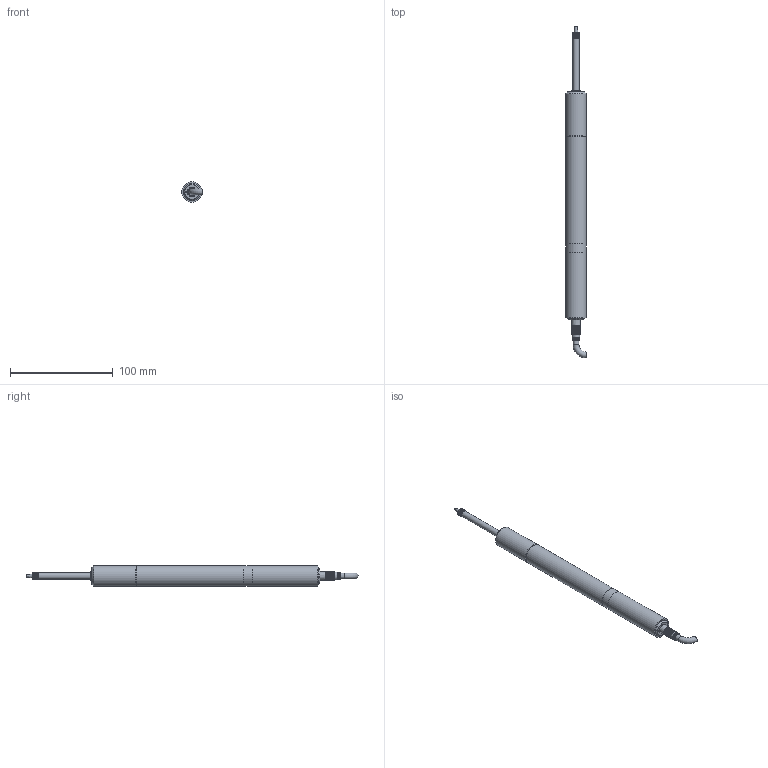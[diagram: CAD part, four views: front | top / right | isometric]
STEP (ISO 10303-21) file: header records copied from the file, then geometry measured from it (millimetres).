
FILE_DESCRIPTION( ( 'STEP AP203' ), '1' );
FILE_NAME( 'N:/Engineering/CAD_Solid/Magnescale/DG-Serie/DK 50 NR5/Kunden 3D/DK 50 NR5 vereinfacht.stp', '2010-08-05T11:51:56', ( ' ' ), ( ' ' ), 'XStep 1.0', ' ', ' ' );
FILE_SCHEMA( ( 'CONFIG_CONTROL_DESIGN) ( )' ) );
Length unit declared in the file: metre
Products named in the file (6): 1; 2; 3; 4; 5; 6
Bounding box: 20 x 323.38 x 20 mm (x, y, z)
Surface area: 17621.7 mm2 (no closed solid volume)
Topology: 0 solids, 150 shells, 150 faces, 764 edges, 728 vertices
Faces by surface type: plane 81, cylinder 34, cone 33, torus 1, bspline 1
Full cylindrical faces by diameter (mm): 1 x2, 1.5 x2, 5.8 x1, 6 x1, 6.567 x1, 6.667 x1, 6.967 x1, 7.067 x1, 7.167 x1, 7.434 x1, 17 x1, 19.4 x1, 19.7 x1, 20 x3
Entity records: 7754 total; most frequent: CARTESIAN_POINT 2015, DIRECTION 1140, ORIENTED_EDGE 715, EDGE_CURVE 715, VERTEX_POINT 715, AXIS2_PLACEMENT_3D 404, LINE 332, VECTOR 332
